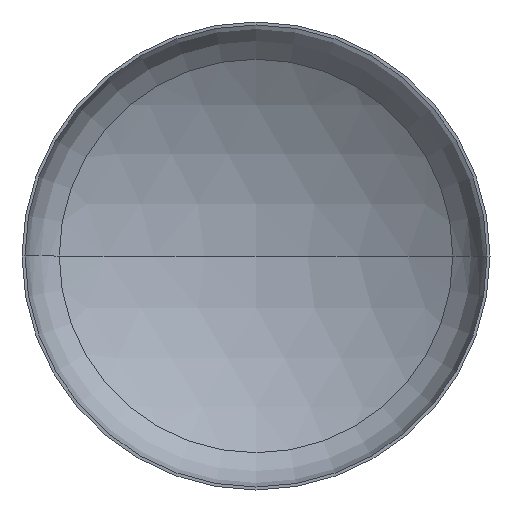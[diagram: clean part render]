
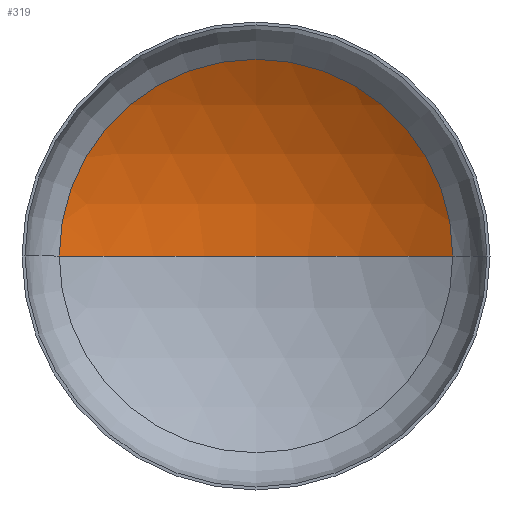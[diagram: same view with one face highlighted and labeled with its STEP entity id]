
A CAD part, front view. The second image highlights one B-rep face of the part: STEP entity #319.
In plain terms, the highlighted spherical face has radius 2880 mm.
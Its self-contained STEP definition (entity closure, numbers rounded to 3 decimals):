
#2 = AXIS2_PLACEMENT_3D ( 'NONE', #125, #360, #139 ) ;
#6 = DIRECTION ( 'NONE',  ( 0., 0., -1. ) ) ;
#24 = AXIS2_PLACEMENT_3D ( 'NONE', #212, #203, #210 ) ;
#28 = AXIS2_PLACEMENT_3D ( 'NONE', #378, #6, #118 ) ;
#29 = AXIS2_PLACEMENT_3D ( 'NONE', #223, #201, #193 ) ;
#83 = EDGE_CURVE ( 'NONE', #175, #120, #182, .T. ) ;
#110 = EDGE_CURVE ( 'NONE', #171, #175, #309, .T. ) ;
#118 = DIRECTION ( 'NONE',  ( -1., 0., 0. ) ) ;
#120 = VERTEX_POINT ( 'NONE', #179 ) ;
#125 = CARTESIAN_POINT ( 'NONE',  ( 0., -1907.964, 0. ) ) ;
#134 = EDGE_CURVE ( 'NONE', #171, #120, #373, .T. ) ;
#139 = DIRECTION ( 'NONE',  ( -1., 0., 0. ) ) ;
#152 = ORIENTED_EDGE ( 'NONE', *, *, #110, .T. ) ;
#171 = VERTEX_POINT ( 'NONE', #276 ) ;
#175 = VERTEX_POINT ( 'NONE', #283 ) ;
#179 = CARTESIAN_POINT ( 'NONE',  ( -1513.703, 542.159, 0. ) ) ;
#182 = CIRCLE ( 'NONE', #29, 1513.703 ) ;
#185 = ORIENTED_EDGE ( 'NONE', *, *, #134, .F. ) ;
#193 = DIRECTION ( 'NONE',  ( 1., 0., 0. ) ) ;
#200 = ORIENTED_EDGE ( 'NONE', *, *, #83, .T. ) ;
#201 = DIRECTION ( 'NONE',  ( 0., -1., 0. ) ) ;
#203 = DIRECTION ( 'NONE',  ( 0., 0., 1. ) ) ;
#210 = DIRECTION ( 'NONE',  ( 1., 0., 0. ) ) ;
#212 = CARTESIAN_POINT ( 'NONE',  ( 0., -1907.964, 0. ) ) ;
#223 = CARTESIAN_POINT ( 'NONE',  ( 0., 542.159, 0. ) ) ;
#235 = SPHERICAL_SURFACE ( 'NONE', #2, 2880. ) ;
#276 = CARTESIAN_POINT ( 'NONE',  ( 0., 972.036, 0. ) ) ;
#283 = CARTESIAN_POINT ( 'NONE',  ( 1513.703, 542.159, 0. ) ) ;
#309 = CIRCLE ( 'NONE', #28, 2880. ) ;
#319 = ADVANCED_FACE ( 'NONE', ( #407 ), #235, .F. ) ;
#351 = EDGE_LOOP ( 'NONE', ( #185, #152, #200 ) ) ;
#360 = DIRECTION ( 'NONE',  ( 0., 0., -1. ) ) ;
#373 = CIRCLE ( 'NONE', #24, 2880. ) ;
#378 = CARTESIAN_POINT ( 'NONE',  ( 0., -1907.964, 0. ) ) ;
#407 = FACE_OUTER_BOUND ( 'NONE', #351, .T. ) ;
